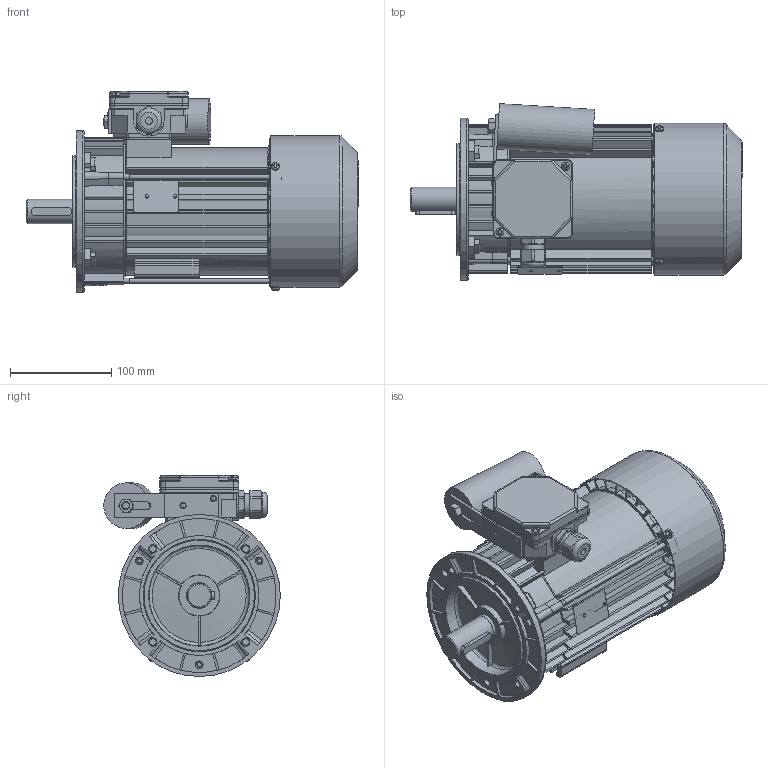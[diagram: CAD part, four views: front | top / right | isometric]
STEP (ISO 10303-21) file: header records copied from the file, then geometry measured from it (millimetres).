
FILE_DESCRIPTION( ( 'Unknown' ), '1' );
FILE_NAME( 'G:/Poczta Tk-1/STP/w.m.90/SEh90/SEKh90-.L1.stp', 'Unknown', ( 'K. Szlosek' ), ( 'BESEL S.A.' ), 'PSStep 17.0.49', 'Unknown', ' ' );
FILE_SCHEMA( ( 'AUTOMOTIVE_DESIGN { 1 0 10303 214 1 1 1 1 }' ) );
Length unit declared in the file: millimetre
Products named in the file (37): skrznka zaciskowa jednofazowa ; K4-2820 Uszczelka nr 2 Sh71,80; K2-1131 Podstawa skrzynki zaciskowej jednofazowa; K4-2999 Uchwyt kondensatora; Nit 4x12 po skróceniu; nakrętka M8; K4-0898 Tulejka uszczelniająca; Dławnica M20x1,5; K2-0860 Pokrywka skrzynki zaciskowej; Assem1; K1-1257 Kadłub S(E,M)h80-C i D; K3-7810 wał S(E,M)h90-.L; K2-1715 Przewietrznik; Wpust A8x7x40; K3-2964 Osłona przewietrznika Sh80,90; K4-2320 Uszczelka nr 1 Sh71,80; K3-7771 Tarcza łożyskowa P S(E,M)h90-L tymczasowy; Wkręt samogwintujący M4x8; Nitokołek A 2x6; Łożysko 6205; Pierścień osadczy sprężyn. Z25; Tabliczka znamionowa 32x44; Śruba ściągająca E_M5x168; Kondensator zb 25-31,5uF Comar; Wkręt samogwintujący M4x12; K3-7774 Tarcza Kołnierzowa 90 B14_1 Sh  
Assembly tree (55 placements, depth 3):
  Assem1
    K1-1257 Kadłub S(E,M)h80-C i D
    K3-7810 wał S(E,M)h90-.L
    K2-1715 Przewietrznik
    Wpust A8x7x40
    K3-2964 Osłona przewietrznika Sh80,90
    K4-2320 Uszczelka nr 1 Sh71,80
    K3-7771 Tarcza łożyskowa P S(E,M)h90-L tymczasowy
    Wkręt samogwintujący M4x8  x3
    Nitokołek A 2x6  x2
    Łożysko 6205  x2
    Łożysko 6205  x2
    Łożysko 6205  x2
    Łożysko 6205  x2
    Łożysko 6205  x2
    Łożysko 6205  x2
    Łożysko 6205  x2
    Łożysko 6205  x2
    Łożysko 6205  x2
    Łożysko 6205  x2
    Łożysko 6205  x2
    Łożysko 6205  x2
    Pierścień osadczy sprężyn. Z25
    Tabliczka znamionowa 32x44
    Śruba ściągająca E_M5x168  x3
    Kondensator zb 25-31,5uF Comar
    Wkręt samogwintujący M4x12  x2
    K3-7774 Tarcza Kołnierzowa 90 B14_1 Sh  
    skrznka zaciskowa jednofazowa 
      K4-2820 Uszczelka nr 2 Sh71,80
      K2-1131 Podstawa skrzynki zaciskowej jednofazowa
      K4-2999 Uchwyt kondensatora
      Nit 4x12 po skróceniu  x2
      nakrętka M8
      K4-0898 Tulejka uszczelniająca
      Dławnica M20x1,5
      K2-0860 Pokrywka skrzynki zaciskowej
Bounding box: 327.8 x 174.3 x 198.5 mm (x, y, z)
Volume: 1171351.5 mm3; surface area: 649127.6 mm2
Topology: 54 solids, 74 shells, 2706 faces, 7517 edges, 4909 vertices
Faces by surface type: plane 1374, cylinder 830, torus 180, cone 175, bspline 101, sphere 46
Full cylindrical faces by diameter (mm): 2 x4, 2.4 x2, 3 x1, 3.7 x11, 4 x8, 4.134 x3, 4.3 x2, 4.5 x3, 4.6 x3, 4.8 x4, 5 x7, 5.5 x3, 6 x2, 6.5 x1, 6.647 x5, 7 x1, 8 x10, 10 x2, 18.376 x1, 18.38 x1, 19.3 x1, 19.5 x1, 19.9 x1, 20 x1, 22.3 x1, 23.9 x1, 24 x1, 25 x5, 25.4 x2, 25.8 x1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
Entity records: 128291 total; most frequent: CARTESIAN_POINT 49311, ORIENTED_EDGE 13476, DIRECTION 13037, EDGE_CURVE 6738, AXIS2_PLACEMENT_3D 4780, VERTEX_POINT 4556, LINE 3477, VECTOR 3477
